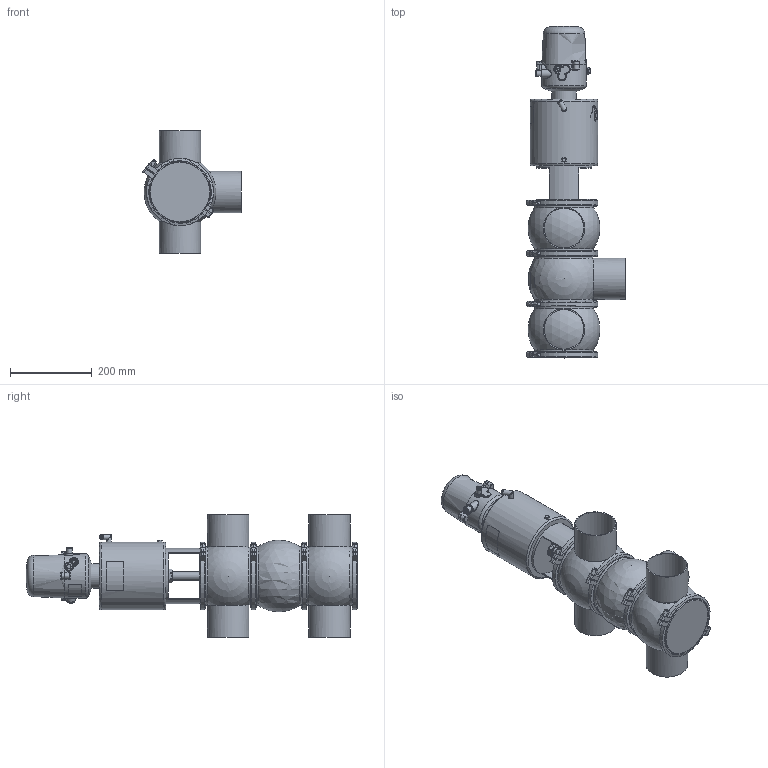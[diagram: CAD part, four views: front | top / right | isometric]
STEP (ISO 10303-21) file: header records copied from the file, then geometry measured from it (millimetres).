
FILE_DESCRIPTION (( 'STEP AP214' ), '1' );
FILE_NAME ('INNOVA L W W OD 4 T4 AS NC & C-TOP S_10.241.16.0064.STEP', '2024-08-06T12:23:13', ( '' ), ( '' ), 'SwSTEP 2.0', 'SolidWorks 2023', '' );
FILE_SCHEMA (( 'AUTOMOTIVE_DESIGN' ));
Length unit declared in the file: millimetre
Products named in the file (9): 10.240.15.0017_Estàndard; 10.426.15.0001_C-TOP S - 1 EV; 10.241.15.0001_DIN 100; 10.240.15.0007_OD 4"; 10.240.15.0014_T4 AS P180; 10.240.15.0006_OD 4"; 10.240.15.0001_DN 100; INNOVA L W W OD 4 T4 AS NC & C-TOP S_10.241.16.0064; 10.240.15.0010_DN 100
Assembly tree (12 placements, depth 2):
  INNOVA L W W OD 4 T4 AS NC & C-TOP S_10.241.16.0064
    10.240.15.0007_OD 4"  x2
    10.240.15.0006_OD 4"
    10.240.15.0010_DN 100
    10.240.15.0014_T4 AS P180
    10.240.15.0017_Estàndard
    10.426.15.0001_C-TOP S - 1 EV
    10.240.15.0001_DN 100  x4
    10.241.15.0001_DIN 100
Bounding box: 241.26 x 813.5 x 300 mm (x, y, z)
Volume: 13579401.2 mm3; surface area: 1038375.6 mm2
Topology: 13 solids, 13 shells, 1317 faces, 3233 edges, 2144 vertices
Faces by surface type: plane 479, cylinder 407, cone 221, bspline 160, torus 36, sphere 14
Full cylindrical faces by diameter (mm): 0.371 x17, 0.512 x16, 0.658 x16, 0.795 x16, 0.94 x15, 1.098 x15, 1.241 x13, 1.382 x13, 1.523 x11, 1.669 x10, 2.201 x1, 4 x2, 5.5 x2, 6 x2, 6.15 x1, 8 x10, 8.5 x1, 10 x1, 10.5 x1, 11 x2, 12.5 x3, 13 x2, 13.5 x2, 16 x1, 17 x3, 20 x3, 20.5 x1, 22 x2, 31 x1, 34.5 x3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
Entity records: 58246 total; most frequent: CARTESIAN_POINT 27839, ORIENTED_EDGE 4538, DIRECTION 3689, EDGE_CURVE 2269, VERTEX_POINT 1614, EDGE_LOOP 1575, AXIS2_PLACEMENT_3D 1516, FACE_OUTER_BOUND 1338
